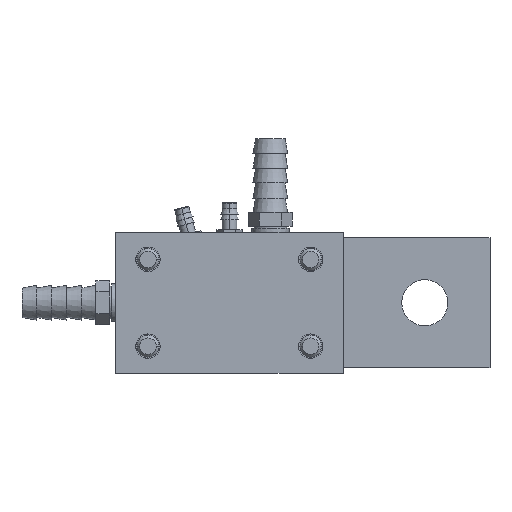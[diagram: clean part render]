
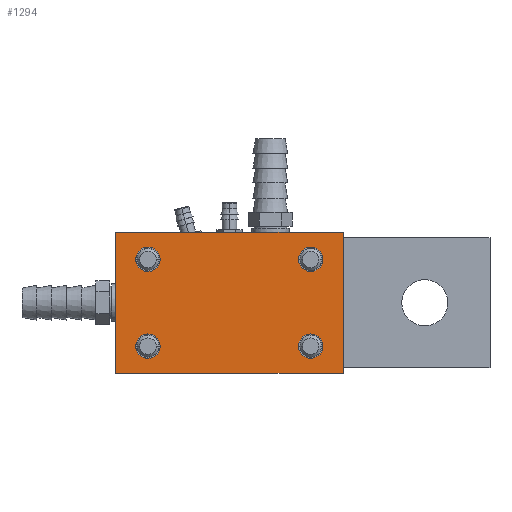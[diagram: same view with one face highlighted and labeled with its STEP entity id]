
A CAD part, left-side view. The second image highlights one B-rep face of the part: STEP entity #1294.
In plain terms, the highlighted planar face has unit normal (-1, 0, 0).
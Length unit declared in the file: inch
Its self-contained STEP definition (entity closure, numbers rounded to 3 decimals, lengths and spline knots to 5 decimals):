
#1029=CARTESIAN_POINT('',(-3.3125,-0.935,-0.5));
#1030=DIRECTION('',(1.,0.,0.));
#1031=DIRECTION('',(0.,-1.,0.));
#1032=AXIS2_PLACEMENT_3D('',#1029,#1030,#1031);
#1034=CARTESIAN_POINT('',(-3.3125,-0.935,-0.5));
#1035=DIRECTION('',(1.,0.,0.));
#1036=DIRECTION('',(0.,1.,0.));
#1037=AXIS2_PLACEMENT_3D('',#1034,#1035,#1036);
#1039=CARTESIAN_POINT('',(-3.3125,-0.935,0.5));
#1040=DIRECTION('',(1.,0.,0.));
#1041=DIRECTION('',(0.,-1.,0.));
#1042=AXIS2_PLACEMENT_3D('',#1039,#1040,#1041);
#1044=CARTESIAN_POINT('',(-3.3125,-0.935,0.5));
#1045=DIRECTION('',(1.,0.,0.));
#1046=DIRECTION('',(0.,1.,0.));
#1047=AXIS2_PLACEMENT_3D('',#1044,#1045,#1046);
#1049=CARTESIAN_POINT('',(-3.3125,0.94,-0.5));
#1050=DIRECTION('',(1.,0.,0.));
#1051=DIRECTION('',(0.,-1.,0.));
#1052=AXIS2_PLACEMENT_3D('',#1049,#1050,#1051);
#1054=CARTESIAN_POINT('',(-3.3125,0.94,-0.5));
#1055=DIRECTION('',(1.,0.,0.));
#1056=DIRECTION('',(0.,1.,0.));
#1057=AXIS2_PLACEMENT_3D('',#1054,#1055,#1056);
#1059=CARTESIAN_POINT('',(-3.3125,0.94,0.5));
#1060=DIRECTION('',(1.,0.,0.));
#1061=DIRECTION('',(0.,-1.,0.));
#1062=AXIS2_PLACEMENT_3D('',#1059,#1060,#1061);
#1064=CARTESIAN_POINT('',(-3.3125,0.94,0.5));
#1065=DIRECTION('',(1.,0.,0.));
#1066=DIRECTION('',(0.,1.,0.));
#1067=AXIS2_PLACEMENT_3D('',#1064,#1065,#1066);
#1097=DIRECTION('',(0.,-1.,0.));
#1098=VECTOR('',#1097,2.625);
#1099=CARTESIAN_POINT('',(-3.3125,1.315,0.8125));
#1100=LINE('',#1099,#1098);
#1105=DIRECTION('',(0.,0.,-1.));
#1106=VECTOR('',#1105,1.625);
#1107=CARTESIAN_POINT('',(-3.3125,-1.31,0.8125));
#1108=LINE('',#1107,#1106);
#1117=DIRECTION('',(0.,1.,0.));
#1118=VECTOR('',#1117,2.625);
#1119=CARTESIAN_POINT('',(-3.3125,-1.31,-0.8125));
#1120=LINE('',#1119,#1118);
#1133=DIRECTION('',(0.,0.,1.));
#1134=VECTOR('',#1133,1.625);
#1135=CARTESIAN_POINT('',(-3.3125,1.315,-0.8125));
#1136=LINE('',#1135,#1134);
#1147=CARTESIAN_POINT('',(-3.3125,1.315,-0.8125));
#1148=VERTEX_POINT('',#1147);
#1149=CARTESIAN_POINT('',(-3.3125,1.315,0.8125));
#1150=VERTEX_POINT('',#1149);
#1153=CARTESIAN_POINT('',(-3.3125,-1.31,-0.8125));
#1154=VERTEX_POINT('',#1153);
#1155=CARTESIAN_POINT('',(-3.3125,-1.31,0.8125));
#1156=VERTEX_POINT('',#1155);
#1157=CARTESIAN_POINT('',(-3.3125,-1.07563,-0.5));
#1159=VERTEX_POINT('',#1157);
#1161=CARTESIAN_POINT('',(-3.3125,-0.79438,-0.5));
#1163=VERTEX_POINT('',#1161);
#1165=CARTESIAN_POINT('',(-3.3125,-1.07563,0.5));
#1167=VERTEX_POINT('',#1165);
#1169=CARTESIAN_POINT('',(-3.3125,-0.79438,0.5));
#1171=VERTEX_POINT('',#1169);
#1173=CARTESIAN_POINT('',(-3.3125,0.79938,-0.5));
#1175=VERTEX_POINT('',#1173);
#1177=CARTESIAN_POINT('',(-3.3125,1.08063,-0.5));
#1179=VERTEX_POINT('',#1177);
#1181=CARTESIAN_POINT('',(-3.3125,0.79938,0.5));
#1183=VERTEX_POINT('',#1181);
#1185=CARTESIAN_POINT('',(-3.3125,1.08063,0.5));
#1187=VERTEX_POINT('',#1185);
#1257=CARTESIAN_POINT('',(-3.3125,0.0025,0.));
#1258=DIRECTION('',(-1.,0.,0.));
#1259=DIRECTION('',(0.,1.,0.));
#1260=AXIS2_PLACEMENT_3D('',#1257,#1258,#1259);
#1261=PLANE('',#1260);
#1263=ORIENTED_EDGE('',*,*,#1262,.T.);
#1265=ORIENTED_EDGE('',*,*,#1264,.T.);
#1267=ORIENTED_EDGE('',*,*,#1266,.T.);
#1269=ORIENTED_EDGE('',*,*,#1268,.T.);
#1270=EDGE_LOOP('',(#1263,#1265,#1267,#1269));
#1271=FACE_OUTER_BOUND('',#1270,.F.);
#1273=ORIENTED_EDGE('',*,*,#1272,.F.);
#1275=ORIENTED_EDGE('',*,*,#1274,.F.);
#1276=EDGE_LOOP('',(#1273,#1275));
#1277=FACE_BOUND('',#1276,.F.);
#1279=ORIENTED_EDGE('',*,*,#1278,.F.);
#1281=ORIENTED_EDGE('',*,*,#1280,.F.);
#1282=EDGE_LOOP('',(#1279,#1281));
#1283=FACE_BOUND('',#1282,.F.);
#1285=ORIENTED_EDGE('',*,*,#1284,.F.);
#1287=ORIENTED_EDGE('',*,*,#1286,.F.);
#1288=EDGE_LOOP('',(#1285,#1287));
#1289=FACE_BOUND('',#1288,.F.);
#1290=ORIENTED_EDGE('',*,*,#1198,.F.);
#1291=ORIENTED_EDGE('',*,*,#1251,.F.);
#1292=EDGE_LOOP('',(#1290,#1291));
#1293=FACE_BOUND('',#1292,.F.);
#1033=CIRCLE('',#1032,0.14063);
#1038=CIRCLE('',#1037,0.14063);
#1043=CIRCLE('',#1042,0.14063);
#1048=CIRCLE('',#1047,0.14063);
#1053=CIRCLE('',#1052,0.14063);
#1058=CIRCLE('',#1057,0.14063);
#1063=CIRCLE('',#1062,0.14063);
#1068=CIRCLE('',#1067,0.14063);
#1198=EDGE_CURVE('',#1159,#1163,#1033,.T.);
#1251=EDGE_CURVE('',#1163,#1159,#1038,.T.);
#1262=EDGE_CURVE('',#1150,#1156,#1100,.T.);
#1264=EDGE_CURVE('',#1156,#1154,#1108,.T.);
#1266=EDGE_CURVE('',#1154,#1148,#1120,.T.);
#1268=EDGE_CURVE('',#1148,#1150,#1136,.T.);
#1272=EDGE_CURVE('',#1167,#1171,#1043,.T.);
#1274=EDGE_CURVE('',#1171,#1167,#1048,.T.);
#1278=EDGE_CURVE('',#1175,#1179,#1053,.T.);
#1280=EDGE_CURVE('',#1179,#1175,#1058,.T.);
#1284=EDGE_CURVE('',#1183,#1187,#1063,.T.);
#1286=EDGE_CURVE('',#1187,#1183,#1068,.T.);
#1294=ADVANCED_FACE('',(#1271,#1277,#1283,#1289,#1293),#1261,.T.);
